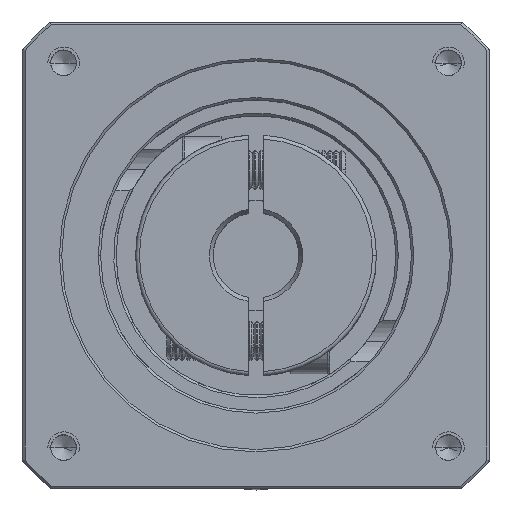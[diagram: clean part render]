
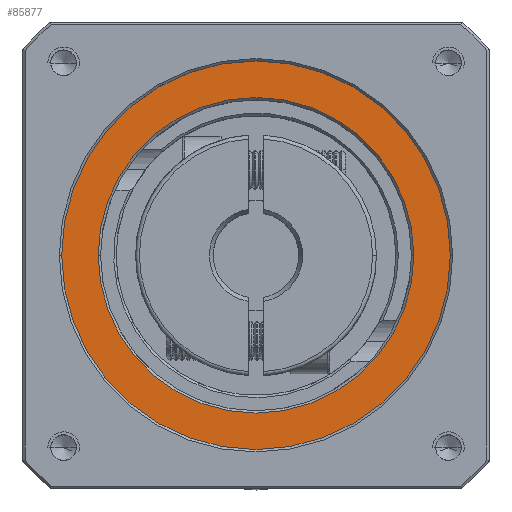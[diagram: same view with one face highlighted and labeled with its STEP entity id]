
A CAD part, top view. The second image highlights one B-rep face of the part: STEP entity #85877.
In plain terms, the highlighted planar face has unit normal (0, 0, 1).
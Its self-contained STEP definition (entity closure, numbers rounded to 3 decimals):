
#5278 = FACE_BOUND ( 'NONE', #46300, .T. ) ;
#6278 = AXIS2_PLACEMENT_3D ( 'NONE', #36050, #94117, #44501 ) ;
#10815 = EDGE_CURVE ( 'NONE', #39035, #36251, #89006, .T. ) ;
#12372 = CARTESIAN_POINT ( 'NONE',  ( -49.716, 10.431, 30.713 ) ) ;
#18740 = CIRCLE ( 'NONE', #91259, 25. ) ;
#19102 = ORIENTED_EDGE ( 'NONE', *, *, #80928, .T. ) ;
#19416 = ORIENTED_EDGE ( 'NONE', *, *, #10815, .T. ) ;
#22260 = ORIENTED_EDGE ( 'NONE', *, *, #80023, .T. ) ;
#23429 = ORIENTED_EDGE ( 'NONE', *, *, #37506, .T. ) ;
#24015 = CARTESIAN_POINT ( 'NONE',  ( -74.716, 10.431, 30.713 ) ) ;
#29763 = DIRECTION ( 'NONE',  ( 0., 0., 1. ) ) ;
#32407 = DIRECTION ( 'NONE',  ( 1., 0., 0. ) ) ;
#33157 = DIRECTION ( 'NONE',  ( 0., 0., 1. ) ) ;
#36050 = CARTESIAN_POINT ( 'NONE',  ( -74.716, 10.431, 30.713 ) ) ;
#36251 = VERTEX_POINT ( 'NONE', #66397 ) ;
#37506 = EDGE_CURVE ( 'NONE', #45647, #44169, #48113, .T. ) ;
#39035 = VERTEX_POINT ( 'NONE', #85286 ) ;
#44169 = VERTEX_POINT ( 'NONE', #12372 ) ;
#44501 = DIRECTION ( 'NONE',  ( 1., 0., 0. ) ) ;
#44708 = CARTESIAN_POINT ( 'NONE',  ( -99.716, 10.431, 30.713 ) ) ;
#45647 = VERTEX_POINT ( 'NONE', #44708 ) ;
#46300 = EDGE_LOOP ( 'NONE', ( #19102, #19416 ) ) ;
#47134 = FACE_OUTER_BOUND ( 'NONE', #106419, .T. ) ;
#48113 = CIRCLE ( 'NONE', #55647, 25. ) ;
#55647 = AXIS2_PLACEMENT_3D ( 'NONE', #24015, #82339, #32407 ) ;
#61382 = AXIS2_PLACEMENT_3D ( 'NONE', #80292, #80159, #80076 ) ;
#61789 = AXIS2_PLACEMENT_3D ( 'NONE', #79703, #29763, #87954 ) ;
#66397 = CARTESIAN_POINT ( 'NONE',  ( -54.416, 10.431, 30.713 ) ) ;
#66475 = CIRCLE ( 'NONE', #6278, 20.3 ) ;
#79703 = CARTESIAN_POINT ( 'NONE',  ( -74.716, 10.431, 30.713 ) ) ;
#80023 = EDGE_CURVE ( 'NONE', #44169, #45647, #18740, .T. ) ;
#80076 = DIRECTION ( 'NONE',  ( 1., 0., 0. ) ) ;
#80159 = DIRECTION ( 'NONE',  ( 0., 0., -1. ) ) ;
#80292 = CARTESIAN_POINT ( 'NONE',  ( -74.716, 10.431, 30.713 ) ) ;
#80928 = EDGE_CURVE ( 'NONE', #36251, #39035, #66475, .T. ) ;
#82339 = DIRECTION ( 'NONE',  ( 0., 0., 1. ) ) ;
#83021 = CARTESIAN_POINT ( 'NONE',  ( -74.716, 10.431, 30.713 ) ) ;
#85286 = CARTESIAN_POINT ( 'NONE',  ( -95.016, 10.431, 30.713 ) ) ;
#85877 = ADVANCED_FACE ( 'NONE', ( #5278, #47134 ), #87608, .T. ) ;
#87608 = PLANE ( 'NONE',  #61789 ) ;
#87954 = DIRECTION ( 'NONE',  ( 1., 0., 0. ) ) ;
#89006 = CIRCLE ( 'NONE', #61382, 20.3 ) ;
#91259 = AXIS2_PLACEMENT_3D ( 'NONE', #83021, #33157, #91335 ) ;
#91335 = DIRECTION ( 'NONE',  ( 1., 0., 0. ) ) ;
#94117 = DIRECTION ( 'NONE',  ( 0., 0., -1. ) ) ;
#106419 = EDGE_LOOP ( 'NONE', ( #22260, #23429 ) ) ;
